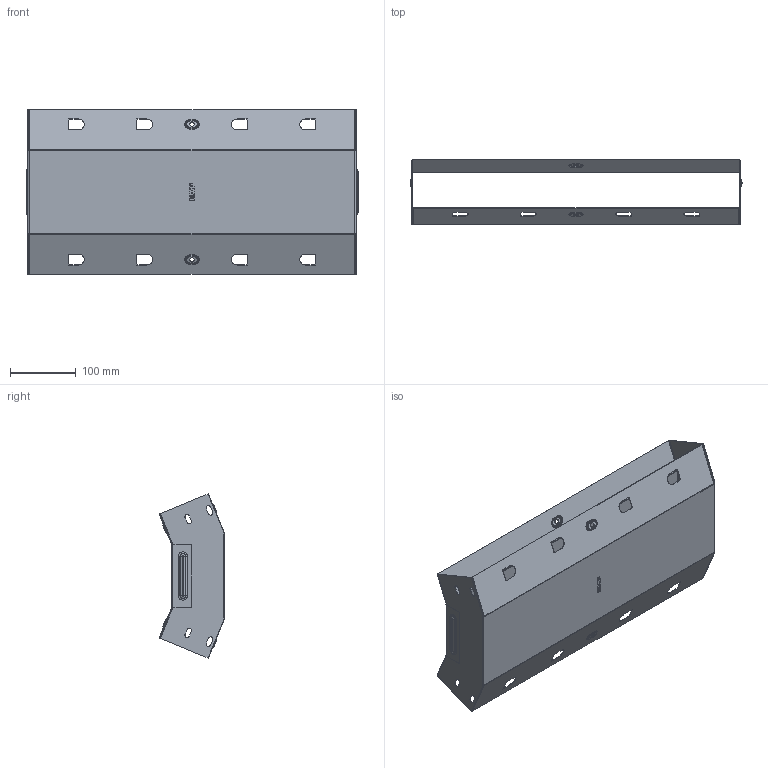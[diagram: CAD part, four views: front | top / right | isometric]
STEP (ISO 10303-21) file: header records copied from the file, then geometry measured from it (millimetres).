
FILE_DESCRIPTION (( 'STEP AP214' ), '1' );
FILE_NAME ('vi4580500_捘.STEP', '2019-06-10T08:30:57', ( '砐錪賧瘔蠈錪 Windows' ), ( '' ), 'SwSTEP 2.0', 'SolidWorks 2018', '' );
FILE_SCHEMA (( 'AUTOMOTIVE_DESIGN' ));
Length unit declared in the file: millimetre
Products named in the file (1): vi4580500_捘
Bounding box: 505.6 x 99.93 x 250.25 mm (x, y, z)
Volume: 211881.9 mm3; surface area: 533501.2 mm2
Topology: 2 solids, 2 shells, 468 faces, 1212 edges, 776 vertices
Faces by surface type: plane 254, cylinder 132, torus 64, bspline 18
Entity records: 15224 total; most frequent: CARTESIAN_POINT 3476, DIRECTION 2438, ORIENTED_EDGE 2424, EDGE_CURVE 1212, LINE 816, VECTOR 816, AXIS2_PLACEMENT_3D 811, VERTEX_POINT 776
